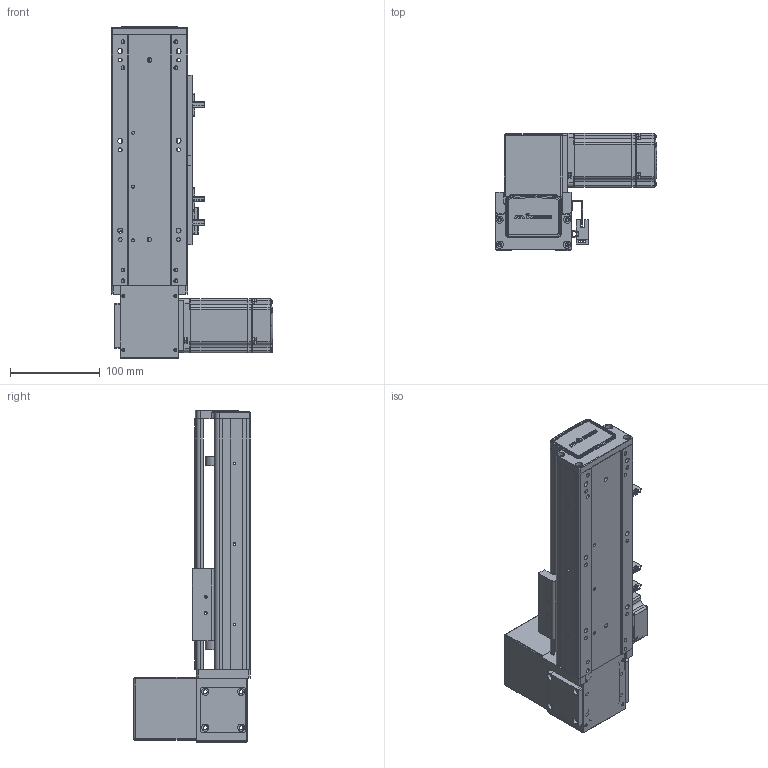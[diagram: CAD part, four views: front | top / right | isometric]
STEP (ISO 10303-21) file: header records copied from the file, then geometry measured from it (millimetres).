
FILE_DESCRIPTION (( 'STEP AP203' ), '1' );
FILE_NAME ('RY80-T-300-UR.SLDASM_100.step', '2021-03-01T02:25:27', ( '盈信电脑' ), ( '东莞市道滘镇水果街19号' ), 'SwSTEP 2.0', 'SolidWorks 2012', '' );
FILE_SCHEMA (( 'CONFIG_CONTROL_DESIGN' ));
Products named in the file (20): RY80-T翋肮祭謫裔啣; RY80-T肮祭謫奻殏俋欶; RY80-T萇儂假蚾啣; RY80-T-300-UR.SLDASM_100; RY80-T-M4蹟翐2; RY80-T-上下折同步轮盖板; 1; RY100-T粣創揤踡裔; 滅袉蝶18-10; RY80-T粣創揤踡輸; RY80俋离覜茼え; RY80-T肮祭湍揤輸1; RY80-T-翋肮祭謫釱; RY80-T肮祭湍揤輸2; 672嫖萇羲壽假蚾釱; 覜茼ん672; RY80-T綴裔啣; RY80-T-300-UR倰第奻裔啣_100; RY80-T-300-UR倰第菁釱_100; RY80-T肮祭謫臏賑輸
Assembly tree (23 placements, depth 2):
  RY80-T-300-UR.SLDASM_100
    RY80-T-300-UR倰第菁釱_100
    RY80-T肮祭謫臏賑輸
    RY80-T-300-UR倰第奻裔啣_100
    RY80-T綴裔啣
    672嫖萇羲壽假蚾釱  x2
    覜茼ん672  x3
    RY80俋离覜茼え
    RY80-T-翋肮祭謫釱
    RY80-T肮祭湍揤輸1
    RY80-T肮祭湍揤輸2
    RY80-T粣創揤踡輸
    滅袉蝶18-10  x2
    RY100-T粣創揤踡裔
    RY80-T翋肮祭謫裔啣
    RY80-T-上下折同步轮盖板
    1
    RY80-T肮祭謫奻殏俋欶
    RY80-T-M4蹟翐2
    RY80-T萇儂假蚾啣
Bounding box: 180 x 130.5 x 370 mm (x, y, z)
Volume: 1027359.6 mm3; surface area: 390807.6 mm2
Topology: 23 solids, 23 shells, 2311 faces, 6315 edges, 4100 vertices
Faces by surface type: plane 1307, cylinder 812, cone 136, bspline 56
Entity records: 71784 total; most frequent: CARTESIAN_POINT 16184, ORIENTED_EDGE 11274, DIRECTION 10810, EDGE_CURVE 5637, VERTEX_POINT 3704, LINE 3646, VECTOR 3646, AXIS2_PLACEMENT_3D 3582
